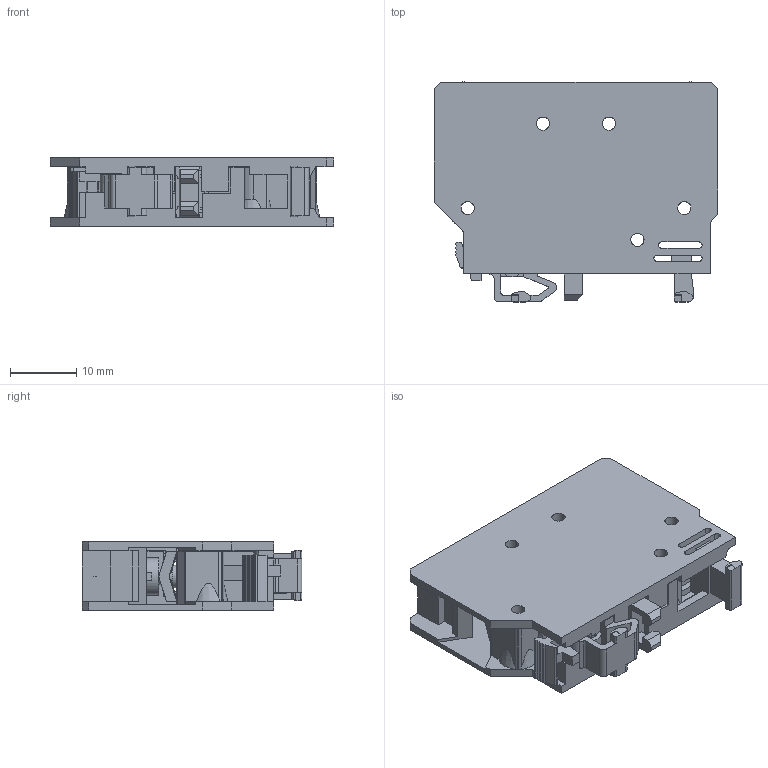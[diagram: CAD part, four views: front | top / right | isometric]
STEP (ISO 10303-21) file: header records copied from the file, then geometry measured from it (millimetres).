
FILE_DESCRIPTION((''),'2;1');
FILE_NAME('12C90082H01-300-SFA10','2023-07-09T11:32:49',('design1'),(''),'CREO PARAMETRIC BY PTC INC, 2022284','CREO PARAMETRIC BY PTC INC, 2022284','');
FILE_SCHEMA(('CONFIG_CONTROL_DESIGN'));
Length unit declared in the file: inch
Products named in the file (1): 12C90082H01-300-SFA10
Bounding box: 43 x 33.31 x 10.35 mm (x, y, z)
Volume: 6110.6 mm3; surface area: 12215.4 mm2
Topology: 4 solids, 8 shells, 1437 faces, 4113 edges, 2711 vertices
Faces by surface type: plane 1033, cylinder 251, cone 72, extrusion 47, torus 16, bspline 10, sphere 8
Entity records: 50503 total; most frequent: CARTESIAN_POINT 12889, ORIENTED_EDGE 8210, DIRECTION 7213, EDGE_CURVE 4105, VECTOR 3145, LINE 3098, VERTEX_POINT 2711, AXIS2_PLACEMENT_3D 2034
